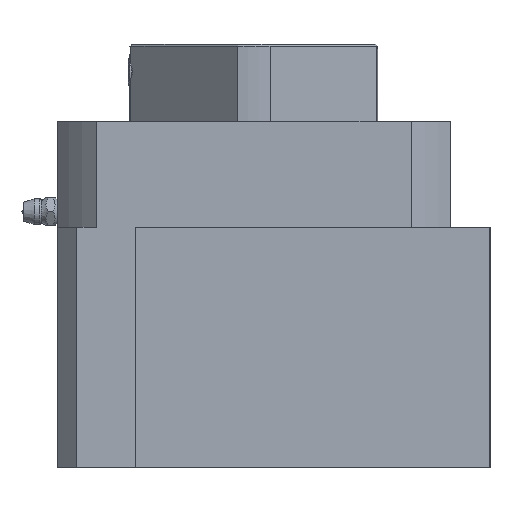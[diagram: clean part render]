
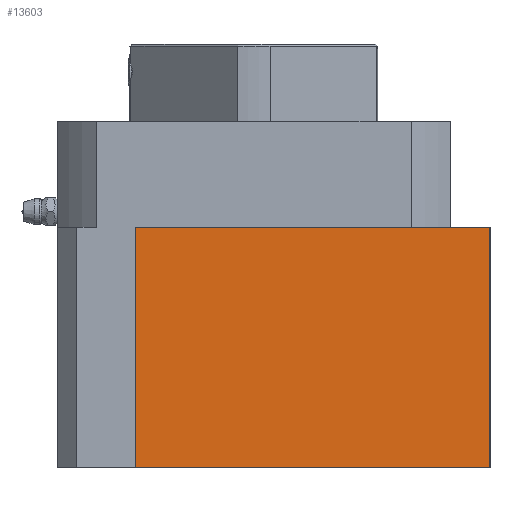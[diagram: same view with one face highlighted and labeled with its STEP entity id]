
A CAD part, left-side view. The second image highlights one B-rep face of the part: STEP entity #13603.
In plain terms, the highlighted planar face has unit normal (-1, 0, 0).
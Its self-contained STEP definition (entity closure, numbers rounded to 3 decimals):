
#578 = LINE ( 'NONE', #5797, #8073 ) ;
#680 = ORIENTED_EDGE ( 'NONE', *, *, #6227, .F. ) ;
#805 = ORIENTED_EDGE ( 'NONE', *, *, #2146, .T. ) ;
#902 = VERTEX_POINT ( 'NONE', #13474 ) ;
#1460 = DIRECTION ( 'NONE',  ( 0., 0., -1. ) ) ;
#1496 = DIRECTION ( 'NONE',  ( 0., 0., -1. ) ) ;
#2146 = EDGE_CURVE ( 'NONE', #6055, #13875, #578, .T. ) ;
#3700 = DIRECTION ( 'NONE',  ( 1., 0., 0. ) ) ;
#3934 = EDGE_CURVE ( 'NONE', #6055, #8786, #12754, .T. ) ;
#4200 = VECTOR ( 'NONE', #4392, 1000. ) ;
#4392 = DIRECTION ( 'NONE',  ( 0., -1., 0. ) ) ;
#4842 = CARTESIAN_POINT ( 'NONE',  ( -80., -60., 61. ) ) ;
#4912 = PLANE ( 'NONE',  #7948 ) ;
#5797 = CARTESIAN_POINT ( 'NONE',  ( -80., 30., 61. ) ) ;
#6055 = VERTEX_POINT ( 'NONE', #11241 ) ;
#6227 = EDGE_CURVE ( 'NONE', #8786, #902, #14105, .T. ) ;
#6610 = LINE ( 'NONE', #14127, #11506 ) ;
#7475 = CARTESIAN_POINT ( 'NONE',  ( -80., 30., 0. ) ) ;
#7817 = VECTOR ( 'NONE', #1496, 1000. ) ;
#7948 = AXIS2_PLACEMENT_3D ( 'NONE', #12689, #3700, #1460 ) ;
#8073 = VECTOR ( 'NONE', #9234, 1000. ) ;
#8168 = ORIENTED_EDGE ( 'NONE', *, *, #3934, .F. ) ;
#8786 = VERTEX_POINT ( 'NONE', #11046 ) ;
#8807 = FACE_OUTER_BOUND ( 'NONE', #12158, .T. ) ;
#9234 = DIRECTION ( 'NONE',  ( 0., 0., -1. ) ) ;
#9512 = DIRECTION ( 'NONE',  ( 0., -1., 0. ) ) ;
#9710 = ORIENTED_EDGE ( 'NONE', *, *, #11222, .T. ) ;
#11046 = CARTESIAN_POINT ( 'NONE',  ( -80., -60., 61. ) ) ;
#11222 = EDGE_CURVE ( 'NONE', #13875, #902, #6610, .T. ) ;
#11241 = CARTESIAN_POINT ( 'NONE',  ( -80., 30., 61. ) ) ;
#11506 = VECTOR ( 'NONE', #9512, 1000. ) ;
#12158 = EDGE_LOOP ( 'NONE', ( #9710, #680, #8168, #805 ) ) ;
#12689 = CARTESIAN_POINT ( 'NONE',  ( -80., 30., 61. ) ) ;
#12754 = LINE ( 'NONE', #13291, #4200 ) ;
#13291 = CARTESIAN_POINT ( 'NONE',  ( -80., 30., 61. ) ) ;
#13474 = CARTESIAN_POINT ( 'NONE',  ( -80., -60., 0. ) ) ;
#13603 = ADVANCED_FACE ( 'NONE', ( #8807 ), #4912, .F. ) ;
#13875 = VERTEX_POINT ( 'NONE', #7475 ) ;
#14105 = LINE ( 'NONE', #4842, #7817 ) ;
#14127 = CARTESIAN_POINT ( 'NONE',  ( -80., 30., 0. ) ) ;
